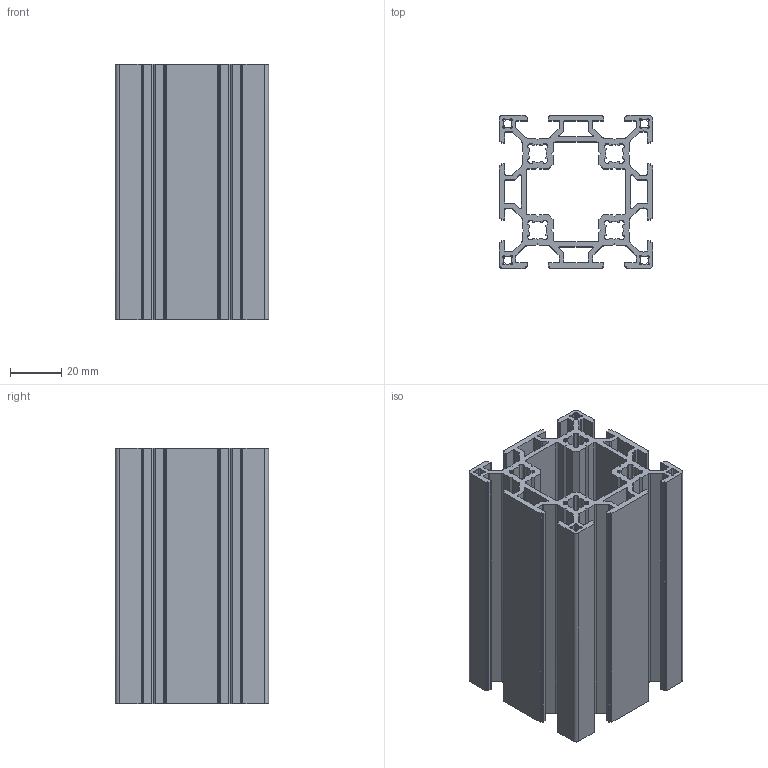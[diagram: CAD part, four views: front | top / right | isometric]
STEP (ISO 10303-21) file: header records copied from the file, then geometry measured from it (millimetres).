
FILE_DESCRIPTION (( 'STEP AP203' ), '1' );
FILE_NAME ('60x60 Çift Kanallý K8 Sigma Profil.STEP', '2022-01-12T19:48:04', ( '' ), ( '' ), 'SwSTEP 2.0', 'SolidWorks 2018', '' );
FILE_SCHEMA (( 'CONFIG_CONTROL_DESIGN' ));
Length unit declared in the file: millimetre
Products named in the file (1): 60x60 Çift Kanallý K8 Sigma Profil
Bounding box: 60 x 60 x 100 mm (x, y, z)
Volume: 105255.3 mm3; surface area: 99465.1 mm2
Topology: 1 solids, 1 shells, 696 faces, 2090 edges, 1396 vertices
Faces by surface type: bspline 696
Entity records: 23757 total; most frequent: CARTESIAN_POINT 11849, ORIENTED_EDGE 4180, EDGE_CURVE 2090, B_SPLINE_CURVE_WITH_KNOTS 1676, VERTEX_POINT 1396, EDGE_LOOP 722, ADVANCED_FACE 696, FACE_OUTER_BOUND 696
